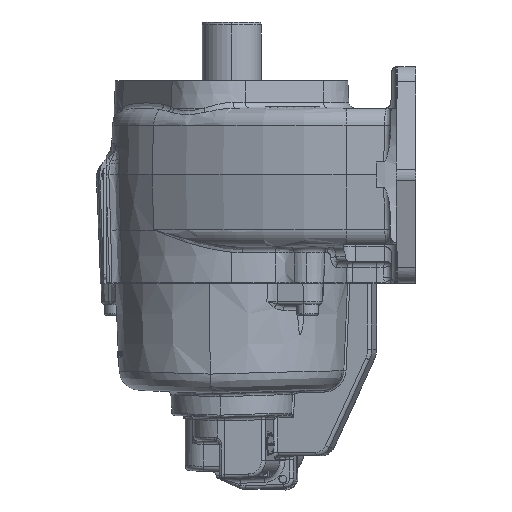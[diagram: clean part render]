
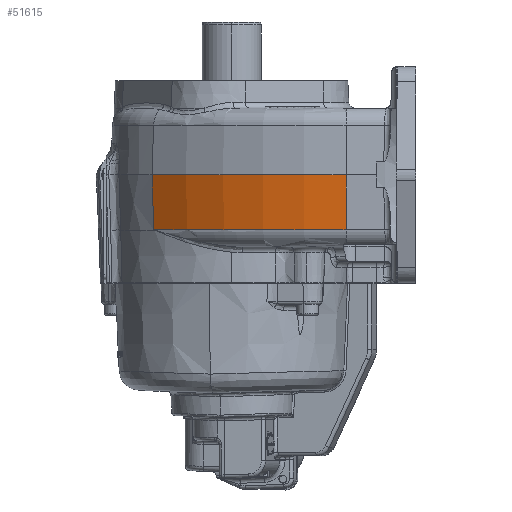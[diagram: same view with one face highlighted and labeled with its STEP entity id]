
A CAD part, left-side view. The second image highlights one B-rep face of the part: STEP entity #51615.
In plain terms, the highlighted conical face has half-angle 2.5 degrees and reference radius 156.43 mm.
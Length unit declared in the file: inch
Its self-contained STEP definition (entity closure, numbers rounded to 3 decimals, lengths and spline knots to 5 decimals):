
#1779 = CARTESIAN_POINT ( 'NONE',  ( -3.125, 0.625, 0. ) ) ;
#1922 = CARTESIAN_POINT ( 'NONE',  ( -3.125, 0.625, 0. ) ) ;
#2738 = EDGE_CURVE ( 'NONE', #22033, #139473, #69242, .T. ) ;
#5943 = CARTESIAN_POINT ( 'NONE',  ( -1.61735, 4.66198, 0. ) ) ;
#10879 = EDGE_CURVE ( 'NONE', #119872, #54474, #30127, .T. ) ;
#12523 = EDGE_CURVE ( 'NONE', #54474, #139473, #53910, .T. ) ;
#14182 = AXIS2_PLACEMENT_3D ( 'NONE', #21715, #143581, #42966 ) ;
#21715 = CARTESIAN_POINT ( 'NONE',  ( 3.03367, 0.625, 0. ) ) ;
#22033 = VERTEX_POINT ( 'NONE', #63960 ) ;
#25057 = CARTESIAN_POINT ( 'NONE',  ( -1.57972, 4.62932, -1.14136 ) ) ;
#28111 = ORIENTED_EDGE ( 'NONE', *, *, #10879, .F. ) ;
#30127 = LINE ( 'NONE', #5943, #41989 ) ;
#38680 = DIRECTION ( 'NONE',  ( 0., 0., 1. ) ) ;
#41317 = EDGE_CURVE ( 'NONE', #119872, #22033, #135290, .T. ) ;
#41989 = VECTOR ( 'NONE', #107276, 39.37008 ) ;
#42966 = DIRECTION ( 'NONE',  ( -1., 0., 0. ) ) ;
#51615 = ADVANCED_FACE ( 'NONE', ( #105555 ), #124894, .T. ) ;
#53910 = CIRCLE ( 'NONE', #14182, 6.15867 ) ;
#54474 = VERTEX_POINT ( 'NONE', #113357 ) ;
#56969 = ORIENTED_EDGE ( 'NONE', *, *, #2738, .T. ) ;
#57507 = ORIENTED_EDGE ( 'NONE', *, *, #41317, .T. ) ;
#60893 = CARTESIAN_POINT ( 'NONE',  ( 3.03367, 0.625, -1.14136 ) ) ;
#61411 = CARTESIAN_POINT ( 'NONE',  ( 3.03367, 0.625, 0. ) ) ;
#61512 = AXIS2_PLACEMENT_3D ( 'NONE', #61411, #38680, #128291 ) ;
#62546 = VECTOR ( 'NONE', #91345, 39.37008 ) ;
#63960 = CARTESIAN_POINT ( 'NONE',  ( -3.07517, 0.625, -1.14136 ) ) ;
#69242 = LINE ( 'NONE', #1779, #62546 ) ;
#79581 = EDGE_LOOP ( 'NONE', ( #28111, #57507, #56969, #141354 ) ) ;
#91345 = DIRECTION ( 'NONE',  ( -0.044, 0., 0.999 ) ) ;
#92577 = DIRECTION ( 'NONE',  ( 1., 0., 0. ) ) ;
#102571 = AXIS2_PLACEMENT_3D ( 'NONE', #60893, #105755, #92577 ) ;
#105555 = FACE_OUTER_BOUND ( 'NONE', #79581, .T. ) ;
#105755 = DIRECTION ( 'NONE',  ( 0., 0., 1. ) ) ;
#107276 = DIRECTION ( 'NONE',  ( -0.033, 0.029, 0.999 ) ) ;
#113357 = CARTESIAN_POINT ( 'NONE',  ( -1.61735, 4.66198, 0. ) ) ;
#119872 = VERTEX_POINT ( 'NONE', #25057 ) ;
#124894 = CONICAL_SURFACE ( 'NONE', #61512, 6.15867, 0.044 ) ;
#128291 = DIRECTION ( 'NONE',  ( -1., 0., 0. ) ) ;
#135290 = CIRCLE ( 'NONE', #102571, 6.10883 ) ;
#139473 = VERTEX_POINT ( 'NONE', #1922 ) ;
#141354 = ORIENTED_EDGE ( 'NONE', *, *, #12523, .F. ) ;
#143581 = DIRECTION ( 'NONE',  ( 0., 0., 1. ) ) ;
